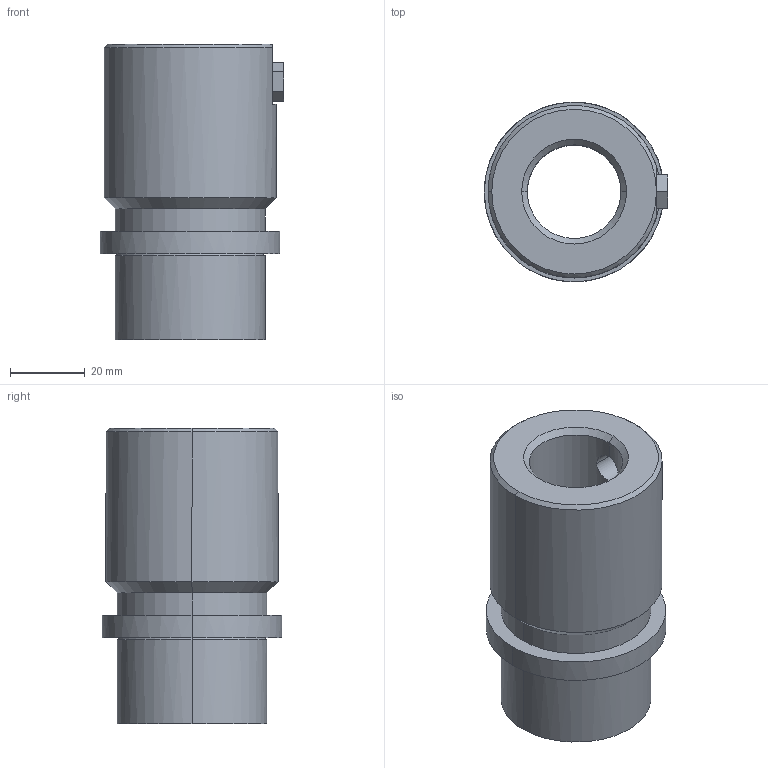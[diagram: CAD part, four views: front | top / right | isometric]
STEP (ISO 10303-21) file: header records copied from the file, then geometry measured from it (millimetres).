
FILE_DESCRIPTION(('CATIA V5 STEP Exchange'),'2;1');
FILE_NAME('C:\Users\Utente\Desktop\IO LAVORO\3D X SITO CF\X SITO\742\742-25.stp','2021-01-23T16:00:21+00:00',('none'),('none'),'CATIA Version 5 Release 20 GA (IN-10)','CATIA V5 STEP AP203','none');
FILE_SCHEMA(('CONFIG_CONTROL_DESIGN'));
Length unit declared in the file: millimetre
Products named in the file (1): 742-25
Assembly tree (1 placements, depth 2):
  742-25
    #58
Bounding box: 49 x 48 x 79 mm (x, y, z)
Volume: 80405.8 mm3; surface area: 20523.6 mm2
Topology: 1 solids, 1 shells, 38 faces, 89 edges, 56 vertices
Faces by surface type: plane 14, cylinder 12, cone 8, torus 4
Entity records: 1267 total; most frequent: CARTESIAN_POINT 359, ORIENTED_EDGE 178, DIRECTION 155, EDGE_CURVE 89, AXIS2_PLACEMENT_3D 74, VERTEX_POINT 56, EDGE_LOOP 43, VECTOR 41
